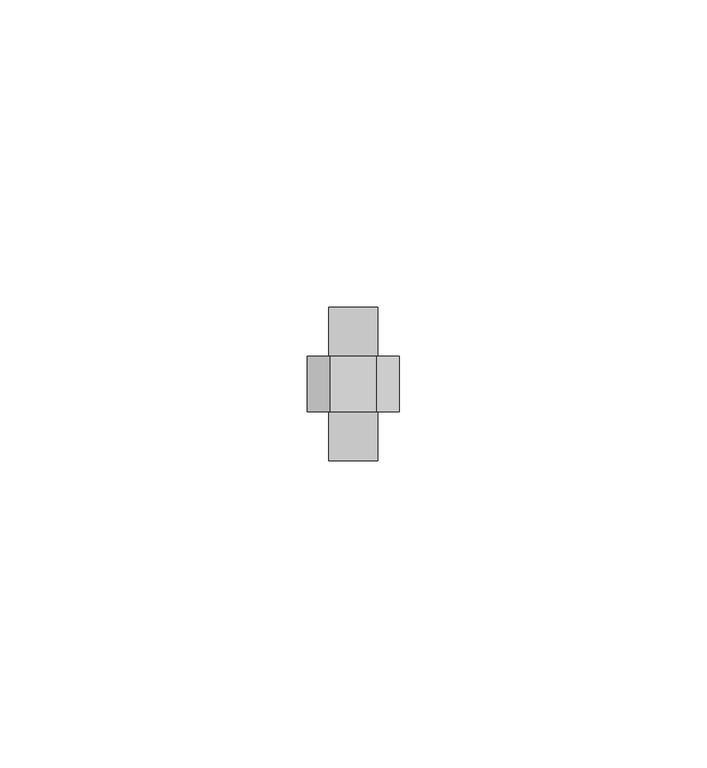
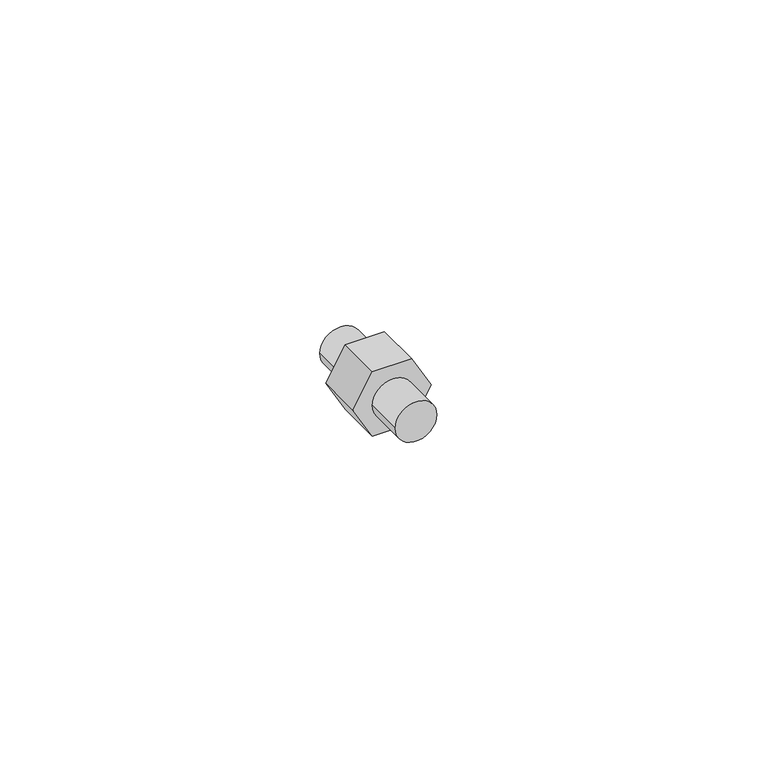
"""IFC4 building model written with IfcOpenShell, lengths in millimetres: proxy geometry, КНС_СоединительИзоляционнаяШтангаМолниеприемник_DKC : NG6608_Гальванически оцинкованнная сталь."""

import ifcopenshell
import ifcopenshell.guid

model = None  # the IFC model being written
_history = None  # IfcOwnerHistory: only IFC2X3 demands one
_inside = {}  # id of a spatial element -> (the spatial element, [elements in it])
_under = {}  # id of a project, library or spatial element -> (it, [spatial elements below it])
_declared = {}  # id of a project -> (the project, [libraries it declares])
_typed = {}  # id of a type object -> (the type object, [elements of that type])
_made_of = {}  # id of a material, layer set ... -> (it, [elements and type objects made of it])


def new_model(schema):
    """Start an empty IFC model of exactly this schema.

    Asked for "IFC4X3", IfcOpenShell would pick the latest addendum, in which some entities
    have other attributes; the version numbers below select the first issue.
    IFC2X3 requires an IfcOwnerHistory on every rooted entity: one is made here for all.
    """
    global model, _history
    if schema == "IFC4X3":
        model = ifcopenshell.file(schema_version=(4, 3, 0, 0))
    else:
        model = ifcopenshell.file(schema=schema)
    _inside.clear()
    _under.clear()
    _declared.clear()
    _typed.clear()
    _made_of.clear()
    _history = None
    if model.schema == "IFC2X3":
        org = make("IfcOrganization", Name="unknown")
        user = make(
            "IfcPersonAndOrganization",
            ThePerson=make("IfcPerson", FamilyName="unknown"),
            TheOrganization=org,
        )
        app = make(
            "IfcApplication",
            ApplicationDeveloper=org,
            Version="unknown",
            ApplicationFullName="unknown",
            ApplicationIdentifier="unknown",
        )
        _history = make(
            "IfcOwnerHistory",
            OwningUser=user,
            OwningApplication=app,
            ChangeAction="ADDED",
            CreationDate=0,
        )
    return model


def make(cls, **values):
    """One entity of the class cls with the attributes given. An attribute that is None is left unset."""
    return model.create_entity(
        cls, **{name: value for name, value in values.items() if value is not None}
    )


def rooted(cls, **values):
    """An entity with a GlobalId (a new one), such as an element, a storey or a relation."""
    return make(cls, GlobalId=ifcopenshell.guid.new(), OwnerHistory=_history, **values)


def si_unit(unit_type, name, prefix=None):
    """IfcSIUnit, for example si_unit("LENGTHUNIT", "METRE", prefix="MILLI")."""
    return make("IfcSIUnit", UnitType=unit_type, Prefix=prefix, Name=name)


def assignment(units):
    """IfcUnitAssignment: the units of a project."""
    return None if units is None else make("IfcUnitAssignment", Units=units)


def point(xyz):
    """IfcCartesianPoint."""
    return None if xyz is None else make("IfcCartesianPoint", Coordinates=xyz)


def direction(xyz):
    """IfcDirection."""
    return None if xyz is None else make("IfcDirection", DirectionRatios=xyz)


def frame(location, z_axis=None, x_axis=None):
    """IfcAxis2Placement3D, a coordinate frame: its origin and axes. An axis left out is left unset."""
    return make(
        "IfcAxis2Placement3D",
        Location=point(location),
        Axis=direction(z_axis),
        RefDirection=direction(x_axis),
    )


def frame_2d(location, x_axis=None):
    """IfcAxis2Placement2D, a coordinate frame in the plane: its origin and x axis."""
    return make(
        "IfcAxis2Placement2D", Location=point(location), RefDirection=direction(x_axis)
    )


def origin():
    """The frame at (0, 0, 0) with its axes left unset."""
    return frame((0.0, 0.0, 0.0))


def origin_2d():
    """The frame at (0, 0) in the plane with its x axis left unset."""
    return frame_2d((0.0, 0.0))


def place(relative_to, where):
    """IfcLocalPlacement: puts the frame where relative to a parent placement (None: the world)."""
    return make(
        "IfcLocalPlacement", PlacementRelTo=relative_to, RelativePlacement=where
    )


def context(
    kind, dimensions, precision=None, world=None, true_north=None, identifier=None
):
    """IfcGeometricRepresentationContext, for example the 3D "Model" context."""
    return make(
        "IfcGeometricRepresentationContext",
        ContextIdentifier=identifier,
        ContextType=kind,
        CoordinateSpaceDimension=dimensions,
        Precision=precision,
        WorldCoordinateSystem=world,
        TrueNorth=true_north,
    )


def project(units=None, contexts=None):
    """IfcProject with its units and contexts."""
    return rooted(
        "IfcProject",
        Name="project",
        RepresentationContexts=contexts,
        UnitsInContext=assignment(units),
    )


def spatial(cls, under=None, at=None, **own):
    """A site, building, storey or space (cls), placed at a placement, below another one or the project."""
    s = rooted(cls, ObjectPlacement=at, **own)
    if under is not None:
        _under.setdefault(under.id(), (under, []))[1].append(s)
    return s


def polyline(points):
    """IfcPolyline through the points."""
    return make("IfcPolyline", Points=[point(p) for p in points])


def circle_curve(where, radius):
    """IfcCircle in the frame where."""
    return make("IfcCircle", Position=where, Radius=radius)


def trimmed(basis, trim1, trim2, sense, master):
    """IfcTrimmedCurve: the piece of a basis curve between two trims."""
    return make(
        "IfcTrimmedCurve",
        BasisCurve=basis,
        Trim1=trim1,
        Trim2=trim2,
        SenseAgreement=sense,
        MasterRepresentation=master,
    )


def segment(curve, same_sense, transition):
    """IfcCompositeCurveSegment."""
    return make(
        "IfcCompositeCurveSegment",
        Transition=transition,
        SameSense=same_sense,
        ParentCurve=curve,
    )


def composite_curve(segments, self_intersect=None):
    """IfcCompositeCurve: segments joined end to end."""
    return make("IfcCompositeCurve", Segments=segments, SelfIntersect=self_intersect)


def outline(outer, holes=None, kind="AREA"):
    """IfcArbitraryClosedProfileDef: a profile drawn as a closed curve; with holes, ...WithVoids."""
    if holes is None:
        return make("IfcArbitraryClosedProfileDef", ProfileType=kind, OuterCurve=outer)
    return make(
        "IfcArbitraryProfileDefWithVoids",
        ProfileType=kind,
        OuterCurve=outer,
        InnerCurves=holes,
    )


def extrude(swept, where, along, depth):
    """IfcExtrudedAreaSolid: the profile swept, set in the frame where, extruded along a direction by depth."""
    return make(
        "IfcExtrudedAreaSolid",
        SweptArea=swept,
        Position=where,
        ExtrudedDirection=direction(along),
        Depth=depth,
    )


def shape(context_of_items, identifier, shape_type, items):
    """IfcShapeRepresentation: the items that make up one representation, for example the "Body"."""
    return make(
        "IfcShapeRepresentation",
        ContextOfItems=context_of_items,
        RepresentationIdentifier=identifier,
        RepresentationType=shape_type,
        Items=items,
    )


def source(mapping_origin, context_of_items, identifier, shape_type, items):
    """IfcRepresentationMap: a shape defined once, which mapped items show again and again."""
    return make(
        "IfcRepresentationMap",
        MappingOrigin=mapping_origin,
        MappedRepresentation=shape(context_of_items, identifier, shape_type, items),
    )


def transform(
    local_origin,
    x_axis=None,
    y_axis=None,
    z_axis=None,
    scale=None,
    scale2=None,
    scale3=None,
    uniform=True,
):
    """IfcCartesianTransformationOperator3D, or its non-uniform kind. x_axis, y_axis, z_axis: its Axis1, 2, 3."""
    if uniform:
        return make(
            "IfcCartesianTransformationOperator3D",
            Axis1=direction(x_axis),
            Axis2=direction(y_axis),
            LocalOrigin=point(local_origin),
            Scale=scale,
            Axis3=direction(z_axis),
        )
    return make(
        "IfcCartesianTransformationOperator3DnonUniform",
        Axis1=direction(x_axis),
        Axis2=direction(y_axis),
        LocalOrigin=point(local_origin),
        Scale=scale,
        Axis3=direction(z_axis),
        Scale2=scale2,
        Scale3=scale3,
    )


def mapped(mapping_source, mapping_target):
    """IfcMappedItem: shows the shape of a source again, moved by a transform."""
    return make(
        "IfcMappedItem", MappingSource=mapping_source, MappingTarget=mapping_target
    )


def made_of(thing, what):
    """Note that an element or type object is made of a material, layer set ...; save() writes the relation."""
    if what is not None:
        _made_of.setdefault(what.id(), (what, []))[1].append(thing)
    return thing


def element(
    cls,
    number,
    at=None,
    inside=None,
    cuts=None,
    type_object=None,
    material=None,
    context=None,
    identifier="Body",
    shape_type=None,
    held_by="IfcProductDefinitionShape",
    body=None,
    shapes=None,
    **own,
):
    """One element of the class cls, such as IfcWall. Its Tag is "e" and its number.

    at: its placement. inside: the storey or other place that contains it. cuts: it is an
    opening in that element (IfcRelVoidsElement). A single representation is given by context,
    identifier, shape_type and body (its items); several are given by shapes. held_by: the class
    of the entity that holds the representations. save() writes the other relations.
    """
    e = rooted(cls, Tag="e%d" % number, ObjectPlacement=at, **own)
    if body is not None:
        shapes = [shape(context, identifier, shape_type, body)]
    if shapes is not None:
        e.Representation = make(held_by, Representations=shapes)
    if inside is not None:
        _inside.setdefault(inside.id(), (inside, []))[1].append(e)
    if cuts is not None:
        rooted(
            "IfcRelVoidsElement", RelatingBuildingElement=cuts, RelatedOpeningElement=e
        )
    if type_object is not None:
        _typed.setdefault(type_object.id(), (type_object, []))[1].append(e)
    return made_of(e, material)


def aggregate(whole, parts):
    """IfcRelAggregates: a whole, such as a stair, and the parts it consists of."""
    return rooted("IfcRelAggregates", RelatingObject=whole, RelatedObjects=parts)


def save(model, path):
    """Write the relations noted so far, then the file.

    IfcRelAggregates (storeys below a building ...), IfcRelContainedInSpatialStructure (elements
    in a storey), IfcRelDefinesByType, IfcRelAssociatesMaterial and IfcRelDeclares: one each for
    every whole, place, type object, material and project.
    """
    for whole, parts in _under.values():
        aggregate(whole, parts)
    for where, things in _inside.values():
        rooted(
            "IfcRelContainedInSpatialStructure",
            RelatedElements=things,
            RelatingStructure=where,
        )
    for kind, things in _typed.values():
        rooted("IfcRelDefinesByType", RelatedObjects=things, RelatingType=kind)
    for what, things in _made_of.values():
        rooted("IfcRelAssociatesMaterial", RelatedObjects=things, RelatingMaterial=what)
    for by, libraries in _declared.values():
        rooted("IfcRelDeclares", RelatingContext=by, RelatedDefinitions=libraries)
    model.write(path)


def security_devices_a315e19a(model_context):
    return source(origin(), model_context, "Body", "SweptSolid", [
        extrude(outline(polyline([(6.4951905, 3.75), (6.4951905, -3.75), (0.0, -7.5), (-6.4951905, -3.75), (-6.4951905, 3.75), (0.0, 7.5), (6.4951905, 3.75)])), frame((0.0, 8.0, 0.0), z_axis=(0.0, 1.0, 0.0), x_axis=(0.0, 0.0, 1.0)), (0.0, 0.0, 1.0), 9.0),
        extrude(outline(composite_curve([segment(trimmed(circle_curve(origin_2d(), 4.0), [point((0.0, -4.0))], [point((0.0, 4.0))], False, "CARTESIAN"), True, "CONTINUOUS"), segment(trimmed(circle_curve(origin_2d(), 4.0), [point((0.0, 4.0))], [point((0.0, -4.0))], False, "CARTESIAN"), True, "CONTINUOUS")], self_intersect=False)), frame((0.0, 0.0, 0.0), z_axis=(0.0, 1.0, 0.0), x_axis=(0.0, 0.0, 1.0)), (0.0, 0.0, 1.0), 25.0),
    ])


if __name__ == "__main__":
    model = new_model("IFC4")
    model_context = context("Model", 3, world=origin())
    ifc_project = project(units=[si_unit("LENGTHUNIT", "METRE", prefix="MILLI")], contexts=[model_context])
    site = spatial("IfcSite", under=ifc_project)
    building = spatial("IfcBuilding", under=site)
    placement = place(None, origin())
    security_devices_shape = security_devices_a315e19a(model_context)
    element("IfcBuildingElementProxy", 1, Name="КНС_СоединительИзоляционнаяШтангаМолниеприемник_DKC : NG6608_Гальванически оцинкованнная сталь", ObjectType="КНС_СоединительИзоляционнаяШтангаМолниеприемник_DKC : NG6608_Гальванически оцинкованнная сталь", at=placement, inside=building, context=model_context, shape_type="MappedRepresentation", body=[
        mapped(security_devices_shape, transform((0.0, 0.0, 0.0), x_axis=(1.0, 0.0, 0.0), y_axis=(0.0, 1.0, 0.0), z_axis=(0.0, 0.0, 1.0))),
    ])
    save(model, "model.ifc")
